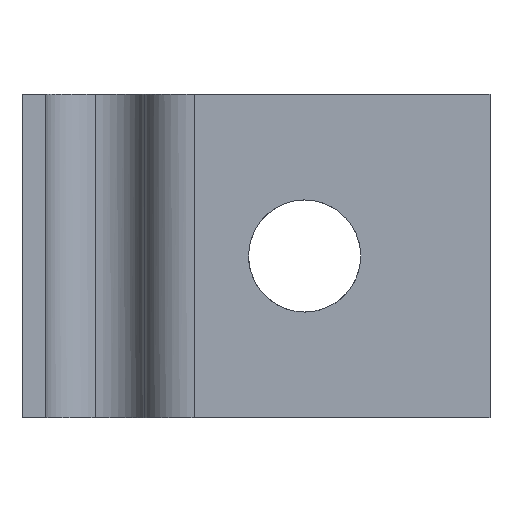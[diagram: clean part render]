
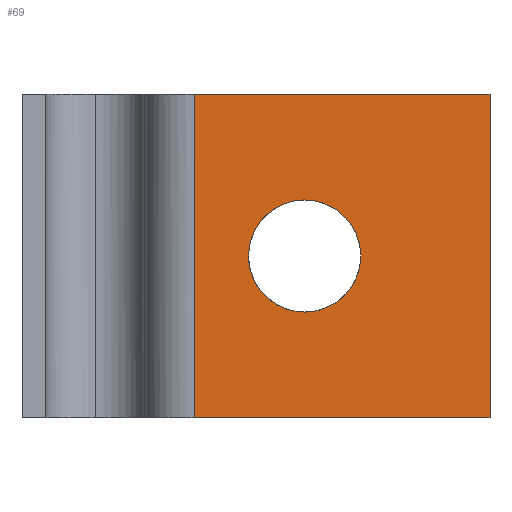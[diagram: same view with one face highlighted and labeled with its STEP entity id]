
A CAD part, front view. The second image highlights one B-rep face of the part: STEP entity #69.
In plain terms, the highlighted planar face has unit normal (0, -1, 0).
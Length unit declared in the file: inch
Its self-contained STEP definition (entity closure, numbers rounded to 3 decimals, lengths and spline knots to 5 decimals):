
#69=ADVANCED_FACE('',(#137,#138),#139,.T.);
#137=FACE_BOUND('',#250,.T.);
#138=FACE_OUTER_BOUND('',#251,.T.);
#139=PLANE('',#252);
#250=EDGE_LOOP('',(#392,#393,#394,#395));
#251=EDGE_LOOP('',(#396,#397,#398,#399));
#252=AXIS2_PLACEMENT_3D('',#400,#401,#402);
#392=ORIENTED_EDGE('',*,*,#456,.T.);
#393=ORIENTED_EDGE('',*,*,#483,.T.);
#394=ORIENTED_EDGE('',*,*,#487,.T.);
#395=ORIENTED_EDGE('',*,*,#479,.T.);
#396=ORIENTED_EDGE('',*,*,#434,.T.);
#397=ORIENTED_EDGE('',*,*,#488,.F.);
#398=ORIENTED_EDGE('',*,*,#448,.T.);
#399=ORIENTED_EDGE('',*,*,#485,.T.);
#400=CARTESIAN_POINT('',(0.74331,-0.06205,0.0));
#401=DIRECTION('',(0.0,-1.0,0.0));
#402=DIRECTION('',(1.0,0.0,0.0));
#434=EDGE_CURVE('',#508,#506,#509,.T.);
#448=EDGE_CURVE('',#535,#533,#536,.T.);
#456=EDGE_CURVE('',#550,#548,#551,.T.);
#479=EDGE_CURVE('',#576,#550,#577,.T.);
#483=EDGE_CURVE('',#548,#580,#582,.T.);
#485=EDGE_CURVE('',#533,#508,#584,.T.);
#487=EDGE_CURVE('',#580,#576,#586,.T.);
#488=EDGE_CURVE('',#535,#506,#587,.T.);
#506=VERTEX_POINT('',#614);
#508=VERTEX_POINT('',#619);
#509=LINE('',#620,#621);
#533=VERTEX_POINT('',#668);
#535=VERTEX_POINT('',#671);
#536=LINE('',#672,#673);
#548=VERTEX_POINT('',#698);
#550=VERTEX_POINT('',#701);
#551=B_SPLINE_CURVE_WITH_KNOTS('',3,(#702,#703,#704,#705),.UNSPECIFIED.,.F.,.F.,(4,4),(0.0,1.0),.UNSPECIFIED.);
#576=VERTEX_POINT('',#750);
#577=B_SPLINE_CURVE_WITH_KNOTS('',3,(#751,#752,#753,#754),.UNSPECIFIED.,.F.,.F.,(4,4),(0.0,1.0),.UNSPECIFIED.);
#580=VERTEX_POINT('',#758);
#582=B_SPLINE_CURVE_WITH_KNOTS('',3,(#761,#762,#763,#764),.UNSPECIFIED.,.F.,.F.,(4,4),(0.0,1.0),.UNSPECIFIED.);
#584=LINE('',#766,#767);
#586=B_SPLINE_CURVE_WITH_KNOTS('',3,(#769,#770,#771,#772),.UNSPECIFIED.,.F.,.F.,(4,4),(0.0,1.0),.UNSPECIFIED.);
#587=LINE('',#773,#774);
#614=CARTESIAN_POINT('',(0.37227,-0.06205,0.8125));
#619=CARTESIAN_POINT('',(1.11434,-0.06205,0.8125));
#620=CARTESIAN_POINT('',(0.37227,-0.06205,0.8125));
#621=VECTOR('',#783,1.0);
#668=CARTESIAN_POINT('',(1.11434,-0.06205,0.0));
#671=CARTESIAN_POINT('',(0.37227,-0.06205,0.0));
#672=CARTESIAN_POINT('',(0.37227,-0.06205,0.0));
#673=VECTOR('',#790,1.0);
#698=CARTESIAN_POINT('',(0.64935,-0.06205,0.5469));
#701=CARTESIAN_POINT('',(0.50869,-0.06205,0.40625));
#702=CARTESIAN_POINT('',(0.50869,-0.06205,0.40625));
#703=CARTESIAN_POINT('',(0.50869,-0.06205,0.48393));
#704=CARTESIAN_POINT('',(0.57167,-0.06205,0.5469));
#705=CARTESIAN_POINT('',(0.64935,-0.06205,0.5469));
#750=CARTESIAN_POINT('',(0.64935,-0.06205,0.2656));
#751=CARTESIAN_POINT('',(0.64935,-0.06205,0.2656));
#752=CARTESIAN_POINT('',(0.57167,-0.06205,0.2656));
#753=CARTESIAN_POINT('',(0.50869,-0.06205,0.32857));
#754=CARTESIAN_POINT('',(0.50869,-0.06205,0.40625));
#758=CARTESIAN_POINT('',(0.79,-0.06205,0.40625));
#761=CARTESIAN_POINT('',(0.64935,-0.06205,0.5469));
#762=CARTESIAN_POINT('',(0.72702,-0.06205,0.5469));
#763=CARTESIAN_POINT('',(0.79,-0.06205,0.48393));
#764=CARTESIAN_POINT('',(0.79,-0.06205,0.40625));
#766=CARTESIAN_POINT('',(1.11434,-0.06205,0.0));
#767=VECTOR('',#806,1.0);
#769=CARTESIAN_POINT('',(0.79,-0.06205,0.40625));
#770=CARTESIAN_POINT('',(0.79,-0.06205,0.32857));
#771=CARTESIAN_POINT('',(0.72702,-0.06205,0.2656));
#772=CARTESIAN_POINT('',(0.64935,-0.06205,0.2656));
#773=CARTESIAN_POINT('',(0.37227,-0.06205,0.0));
#774=VECTOR('',#807,1.0);
#783=DIRECTION('',(-1.0,-0.0,-0.0));
#790=DIRECTION('',(1.0,0.0,0.0));
#806=DIRECTION('',(0.0,0.0,1.0));
#807=DIRECTION('',(0.0,0.0,1.0));
